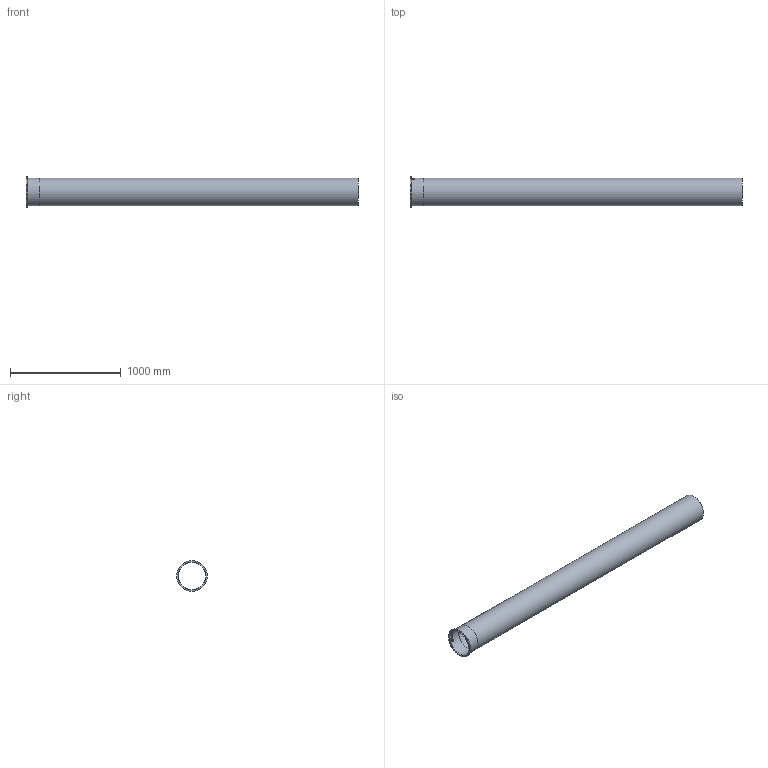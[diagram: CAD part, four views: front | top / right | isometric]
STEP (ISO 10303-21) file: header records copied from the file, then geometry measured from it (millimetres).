
FILE_DESCRIPTION((''),'2;1');
FILE_NAME('I:\WATTS\3D_CAD\3D_CAD_Models\Blucher_Drains\P_StraightPipe\WebsiteFiles\3D\STEP\P10-9.8-316.stp','2009-12-03T09:24:45',('menesek'),(''),'Autodesk Inventor 2010','Autodesk Inventor 2010','');
FILE_SCHEMA(('AUTOMOTIVE_DESIGN { 1 0 10303 214 1 1 1 1 }'));
Length unit declared in the file: inch
Products named in the file (1): P10-9.8-316
Bounding box: 3000 x 277.11 x 277.11 mm (x, y, z)
Volume: 3683743.4 mm3; surface area: 4708400.3 mm2
Topology: 1 solids, 1 shells, 109 faces, 285 edges, 190 vertices
Faces by surface type: plane 59, bspline 34, cylinder 16
Full cylindrical faces by diameter (mm): 246.888 x1, 249.936 x1, 250.952 x2, 277.114 x1
Entity records: 14221 total; most frequent: CARTESIAN_POINT 11843, ORIENTED_EDGE 548, DIRECTION 356, EDGE_CURVE 274, VERTEX_POINT 186, EDGE_LOOP 128, AXIS2_PLACEMENT_3D 120, VECTOR 116
